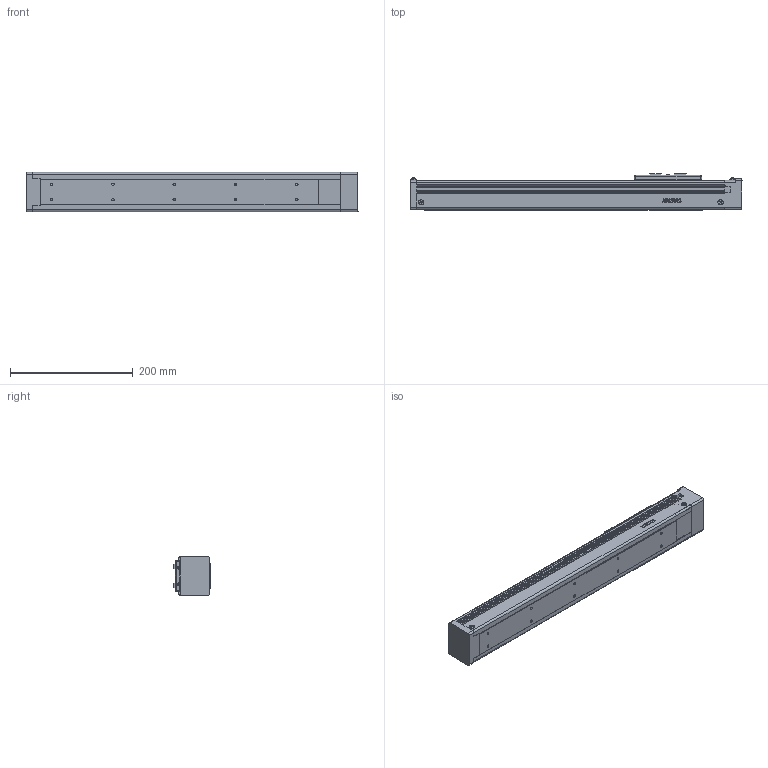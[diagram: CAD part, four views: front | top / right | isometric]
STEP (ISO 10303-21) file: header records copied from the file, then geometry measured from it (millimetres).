
FILE_DESCRIPTION(/* description */ (''),/* implementation_level */ '2;1');
FILE_NAME(/* name */ 'D:\混合母檔20191031\混和母檔\混和母檔\bin\Debug\Download\3D\KE6510C-350AF0\KE6510C-350AF0.stp',/* time_stamp */ '2019-11-04T13:54:59+08:00',/* author */ ('user'),/* organization */ (''),/* preprocessor_version */ 'ST-DEVELOPER v16.13',/* originating_system */ 'Autodesk Inventor 2018',/* authorisation */ '');
FILE_SCHEMA (('AUTOMOTIVE_DESIGN { 1 0 10303 214 3 1 1 }'));
Length unit declared in the file: millimetre
Products named in the file (3): KE6510C-350AF0; KE65-F0-BP; KE65-SL
Assembly tree (2 placements, depth 2):
  KE6510C-350AF0
    KE65-F0-BP
    KE65-SL
Bounding box: 542 x 60 x 64.57 mm (x, y, z)
Volume: 1598971 mm3; surface area: 179884.1 mm2
Topology: 2 solids, 17 shells, 1084 faces, 2938 edges, 1926 vertices
Faces by surface type: plane 581, cone 164, cylinder 139, bspline 136, torus 54, sphere 10
Full cylindrical faces by diameter (mm): 2.459 x8, 2.729 x4, 3 x4, 3.242 x8, 3.5 x6, 3.571 x4, 4.134 x10, 4.2 x4, 6 x1, 8 x1, 8.4 x8, 30 x1
Entity records: 39463 total; most frequent: CARTESIAN_POINT 12919, ORIENTED_EDGE 5452, DIRECTION 4914, EDGE_CURVE 2726, VERTEX_POINT 1853, LINE 1652, VECTOR 1652, AXIS2_PLACEMENT_3D 1631
